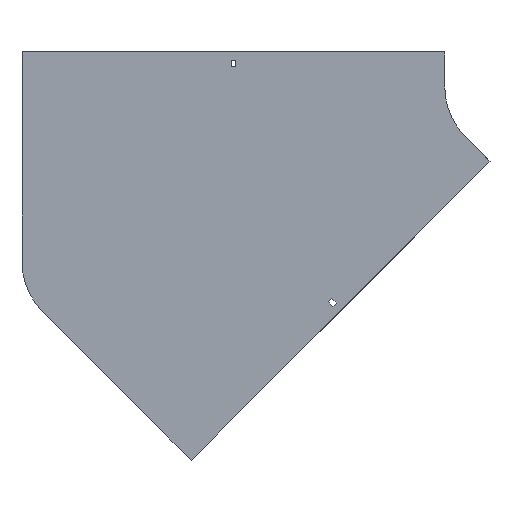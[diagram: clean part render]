
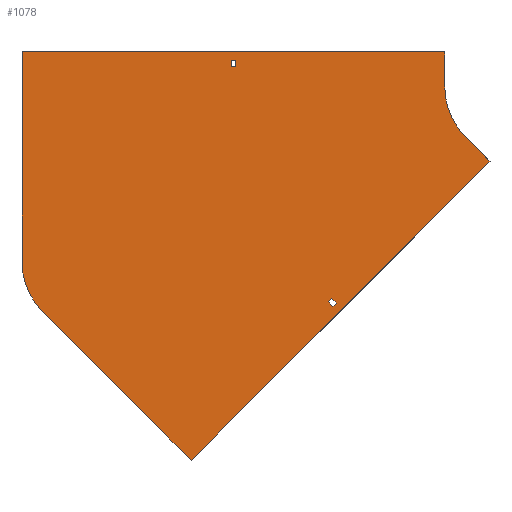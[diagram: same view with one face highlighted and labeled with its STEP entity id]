
A CAD part, front view. The second image highlights one B-rep face of the part: STEP entity #1078.
In plain terms, the highlighted planar face has unit normal (0, -1, 0).
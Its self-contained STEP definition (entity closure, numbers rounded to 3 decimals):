
#12 = VERTEX_POINT ( 'NONE', #649 ) ;
#16 = CARTESIAN_POINT ( 'NONE',  ( -255.089, 0., -308.829 ) ) ;
#21 = VERTEX_POINT ( 'NONE', #971 ) ;
#26 = CARTESIAN_POINT ( 'NONE',  ( -704., 0., 50. ) ) ;
#55 = CIRCLE ( 'NONE', #857, 100. ) ;
#63 = ORIENTED_EDGE ( 'NONE', *, *, #716, .T. ) ;
#67 = CARTESIAN_POINT ( 'NONE',  ( 0., 0., 0. ) ) ;
#69 = EDGE_CURVE ( 'NONE', #927, #1112, #55, .T. ) ;
#76 = LINE ( 'NONE', #1008, #318 ) ;
#78 = LINE ( 'NONE', #431, #338 ) ;
#90 = CARTESIAN_POINT ( 'NONE',  ( -405.25, 0., 29. ) ) ;
#93 = DIRECTION ( 'NONE',  ( -1., 0., 0. ) ) ;
#99 = ORIENTED_EDGE ( 'NONE', *, *, #69, .F. ) ;
#102 = VECTOR ( 'NONE', #648, 1000. ) ;
#106 = CARTESIAN_POINT ( 'NONE',  ( -704., 0., 50. ) ) ;
#128 = LINE ( 'NONE', #974, #382 ) ;
#142 = DIRECTION ( 'NONE',  ( 0., 1., 0. ) ) ;
#144 = ORIENTED_EDGE ( 'NONE', *, *, #1187, .F. ) ;
#151 = ORIENTED_EDGE ( 'NONE', *, *, #1129, .F. ) ;
#152 = CARTESIAN_POINT ( 'NONE',  ( -704., 0., -250.185 ) ) ;
#182 = CARTESIAN_POINT ( 'NONE',  ( -398.75, 0., 38. ) ) ;
#196 = DIRECTION ( 'NONE',  ( 0., -1., 0. ) ) ;
#210 = EDGE_CURVE ( 'NONE', #947, #629, #1193, .T. ) ;
#213 = DIRECTION ( 'NONE',  ( 0.707, 0., -0.707 ) ) ;
#217 = VECTOR ( 'NONE', #441, 1000. ) ;
#228 = EDGE_CURVE ( 'NONE', #711, #391, #480, .T. ) ;
#236 = CARTESIAN_POINT ( 'NONE',  ( -70.711, 0., -70.711 ) ) ;
#240 = VERTEX_POINT ( 'NONE', #283 ) ;
#242 = DIRECTION ( 'NONE',  ( 0., 0., 1. ) ) ;
#256 = VERTEX_POINT ( 'NONE', #1139 ) ;
#257 = EDGE_CURVE ( 'NONE', #1170, #947, #76, .T. ) ;
#283 = CARTESIAN_POINT ( 'NONE',  ( -266.049, 0., -307.061 ) ) ;
#288 = CARTESIAN_POINT ( 'NONE',  ( -259.685, 0., -313.425 ) ) ;
#292 = DIRECTION ( 'NONE',  ( 0., 0., 1. ) ) ;
#318 = VECTOR ( 'NONE', #574, 1000. ) ;
#322 = CARTESIAN_POINT ( 'NONE',  ( -462.448, 0., -533.159 ) ) ;
#338 = VECTOR ( 'NONE', #1315, 1000. ) ;
#353 = CARTESIAN_POINT ( 'NONE',  ( -405.25, 0., 38. ) ) ;
#358 = VECTOR ( 'NONE', #1324, 1000. ) ;
#376 = CARTESIAN_POINT ( 'NONE',  ( -259.685, 0., -313.425 ) ) ;
#377 = FACE_BOUND ( 'NONE', #633, .T. ) ;
#382 = VECTOR ( 'NONE', #758, 1000. ) ;
#389 = DIRECTION ( 'NONE',  ( 0.707, 0., 0.707 ) ) ;
#391 = VERTEX_POINT ( 'NONE', #16 ) ;
#393 = VECTOR ( 'NONE', #213, 1000. ) ;
#400 = CARTESIAN_POINT ( 'NONE',  ( -70.711, 0., -70.711 ) ) ;
#404 = VECTOR ( 'NONE', #1350, 1000. ) ;
#410 = LINE ( 'NONE', #106, #102 ) ;
#431 = CARTESIAN_POINT ( 'NONE',  ( -266.049, 0., -307.061 ) ) ;
#438 = ORIENTED_EDGE ( 'NONE', *, *, #851, .F. ) ;
#441 = DIRECTION ( 'NONE',  ( 0., 0., 1. ) ) ;
#453 = EDGE_CURVE ( 'NONE', #391, #256, #1184, .T. ) ;
#475 = CARTESIAN_POINT ( 'NONE',  ( -266.049, 0., -307.061 ) ) ;
#480 = LINE ( 'NONE', #376, #1084 ) ;
#484 = ORIENTED_EDGE ( 'NONE', *, *, #210, .F. ) ;
#488 = CARTESIAN_POINT ( 'NONE',  ( 0., 0., 0. ) ) ;
#505 = FACE_BOUND ( 'NONE', #736, .T. ) ;
#506 = VERTEX_POINT ( 'NONE', #182 ) ;
#522 = AXIS2_PLACEMENT_3D ( 'NONE', #67, #196, #806 ) ;
#538 = CARTESIAN_POINT ( 'NONE',  ( -100., 0., 50. ) ) ;
#540 = VECTOR ( 'NONE', #93, 1000. ) ;
#550 = LINE ( 'NONE', #152, #217 ) ;
#574 = DIRECTION ( 'NONE',  ( 0., 0., -1. ) ) ;
#575 = CARTESIAN_POINT ( 'NONE',  ( -674.711, 0., -320.896 ) ) ;
#609 = ORIENTED_EDGE ( 'NONE', *, *, #257, .F. ) ;
#613 = DIRECTION ( 'NONE',  ( 0., -1., 0. ) ) ;
#615 = AXIS2_PLACEMENT_3D ( 'NONE', #488, #613, #694 ) ;
#619 = ORIENTED_EDGE ( 'NONE', *, *, #890, .T. ) ;
#629 = VERTEX_POINT ( 'NONE', #400 ) ;
#633 = EDGE_LOOP ( 'NONE', ( #63, #1175, #619, #689 ) ) ;
#634 = VERTEX_POINT ( 'NONE', #90 ) ;
#646 = VECTOR ( 'NONE', #1216, 1000. ) ;
#648 = DIRECTION ( 'NONE',  ( 1., 0., 0. ) ) ;
#649 = CARTESIAN_POINT ( 'NONE',  ( -405.25, 0., 38. ) ) ;
#683 = CARTESIAN_POINT ( 'NONE',  ( -35.355, 0., -106.066 ) ) ;
#687 = DIRECTION ( 'NONE',  ( 0., 0., -1. ) ) ;
#689 = ORIENTED_EDGE ( 'NONE', *, *, #976, .T. ) ;
#694 = DIRECTION ( 'NONE',  ( 0., 0., -1. ) ) ;
#703 = LINE ( 'NONE', #475, #404 ) ;
#711 = VERTEX_POINT ( 'NONE', #288 ) ;
#716 = EDGE_CURVE ( 'NONE', #634, #12, #858, .T. ) ;
#728 = PLANE ( 'NONE',  #522 ) ;
#736 = EDGE_LOOP ( 'NONE', ( #1391, #438, #1230, #1339 ) ) ;
#758 = DIRECTION ( 'NONE',  ( -0.707, 0., 0.707 ) ) ;
#764 = EDGE_CURVE ( 'NONE', #256, #240, #78, .T. ) ;
#766 = VECTOR ( 'NONE', #687, 1000. ) ;
#784 = LINE ( 'NONE', #683, #646 ) ;
#806 = DIRECTION ( 'NONE',  ( 0., 0., -1. ) ) ;
#808 = EDGE_CURVE ( 'NONE', #1152, #927, #128, .T. ) ;
#811 = VECTOR ( 'NONE', #292, 1000. ) ;
#835 = CARTESIAN_POINT ( 'NONE',  ( -704., 0., -250.185 ) ) ;
#838 = ORIENTED_EDGE ( 'NONE', *, *, #1318, .F. ) ;
#849 = EDGE_LOOP ( 'NONE', ( #151, #838, #99, #1042, #1279, #144, #484, #609 ) ) ;
#851 = EDGE_CURVE ( 'NONE', #240, #711, #703, .T. ) ;
#852 = EDGE_CURVE ( 'NONE', #12, #506, #1321, .T. ) ;
#857 = AXIS2_PLACEMENT_3D ( 'NONE', #1071, #142, #242 ) ;
#858 = LINE ( 'NONE', #967, #811 ) ;
#885 = CARTESIAN_POINT ( 'NONE',  ( -261.453, 0., -302.465 ) ) ;
#890 = EDGE_CURVE ( 'NONE', #506, #1322, #1116, .T. ) ;
#927 = VERTEX_POINT ( 'NONE', #575 ) ;
#947 = VERTEX_POINT ( 'NONE', #1016 ) ;
#955 = VERTEX_POINT ( 'NONE', #26 ) ;
#967 = CARTESIAN_POINT ( 'NONE',  ( -405.25, 0., 29. ) ) ;
#971 = CARTESIAN_POINT ( 'NONE',  ( -35.355, 0., -106.066 ) ) ;
#974 = CARTESIAN_POINT ( 'NONE',  ( -462.448, 0., -533.159 ) ) ;
#976 = EDGE_CURVE ( 'NONE', #1322, #634, #1245, .T. ) ;
#1008 = CARTESIAN_POINT ( 'NONE',  ( -100., 0., 50. ) ) ;
#1016 = CARTESIAN_POINT ( 'NONE',  ( -100., 0., 0. ) ) ;
#1042 = ORIENTED_EDGE ( 'NONE', *, *, #808, .F. ) ;
#1071 = CARTESIAN_POINT ( 'NONE',  ( -604., 0., -250.185 ) ) ;
#1078 = ADVANCED_FACE ( 'NONE', ( #377, #1264, #505 ), #728, .T. ) ;
#1084 = VECTOR ( 'NONE', #389, 1000. ) ;
#1112 = VERTEX_POINT ( 'NONE', #835 ) ;
#1116 = LINE ( 'NONE', #1343, #766 ) ;
#1129 = EDGE_CURVE ( 'NONE', #955, #1170, #410, .T. ) ;
#1133 = DIRECTION ( 'NONE',  ( 1., 0., 0. ) ) ;
#1139 = CARTESIAN_POINT ( 'NONE',  ( -261.453, 0., -302.465 ) ) ;
#1152 = VERTEX_POINT ( 'NONE', #322 ) ;
#1170 = VERTEX_POINT ( 'NONE', #538 ) ;
#1175 = ORIENTED_EDGE ( 'NONE', *, *, #852, .T. ) ;
#1178 = LINE ( 'NONE', #236, #393 ) ;
#1184 = LINE ( 'NONE', #885, #358 ) ;
#1187 = EDGE_CURVE ( 'NONE', #629, #21, #1178, .T. ) ;
#1193 = CIRCLE ( 'NONE', #615, 100. ) ;
#1216 = DIRECTION ( 'NONE',  ( -0.707, 0., -0.707 ) ) ;
#1230 = ORIENTED_EDGE ( 'NONE', *, *, #764, .F. ) ;
#1245 = LINE ( 'NONE', #1360, #540 ) ;
#1264 = FACE_OUTER_BOUND ( 'NONE', #849, .T. ) ;
#1267 = VECTOR ( 'NONE', #1133, 1000. ) ;
#1279 = ORIENTED_EDGE ( 'NONE', *, *, #1331, .F. ) ;
#1315 = DIRECTION ( 'NONE',  ( -0.707, 0., -0.707 ) ) ;
#1318 = EDGE_CURVE ( 'NONE', #1112, #955, #550, .T. ) ;
#1321 = LINE ( 'NONE', #353, #1267 ) ;
#1322 = VERTEX_POINT ( 'NONE', #1332 ) ;
#1324 = DIRECTION ( 'NONE',  ( -0.707, 0., 0.707 ) ) ;
#1331 = EDGE_CURVE ( 'NONE', #21, #1152, #784, .T. ) ;
#1332 = CARTESIAN_POINT ( 'NONE',  ( -398.75, 0., 29. ) ) ;
#1339 = ORIENTED_EDGE ( 'NONE', *, *, #453, .F. ) ;
#1343 = CARTESIAN_POINT ( 'NONE',  ( -398.75, 0., 29. ) ) ;
#1350 = DIRECTION ( 'NONE',  ( 0.707, 0., -0.707 ) ) ;
#1360 = CARTESIAN_POINT ( 'NONE',  ( -405.25, 0., 29. ) ) ;
#1391 = ORIENTED_EDGE ( 'NONE', *, *, #228, .F. ) ;
